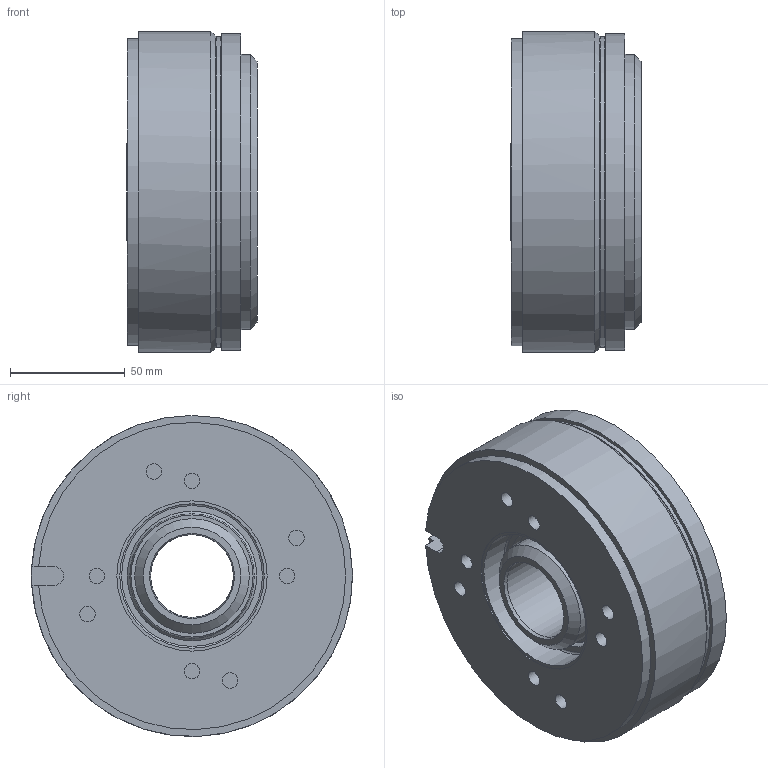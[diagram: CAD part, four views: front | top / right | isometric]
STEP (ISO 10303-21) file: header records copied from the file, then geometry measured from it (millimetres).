
FILE_DESCRIPTION (( 'STEP AP203' ), '1' );
FILE_NAME ('86_61114P00-0001_Idx_E.STEP', '2025-02-14T09:37:05', ( '' ), ( '' ), 'SwSTEP 2.0', 'SolidWorks 2022', '' );
FILE_SCHEMA (( 'CONFIG_CONTROL_DESIGN' ));
Length unit declared in the file: millimetre
Products named in the file (1): 86_61114P00-0001_Idx_E
Bounding box: 56.73 x 140 x 140 mm (x, y, z)
Volume: 725511.1 mm3; surface area: 99773.8 mm2
Topology: 2 solids, 2 shells, 68 faces, 129 edges, 83 vertices
Faces by surface type: cylinder 28, plane 26, cone 11, torus 3
Full cylindrical faces by diameter (mm): 6.8 x8, 8.5 x3, 36 x1, 36.2 x1, 50 x2, 54.3 x1, 56.5 x1, 63 x1, 65.5 x1, 66 x1, 70 x1, 108 x1, 120 x1, 135.5 x1, 138 x1, 140 x1
Entity records: 1962 total; most frequent: CARTESIAN_POINT 644, DIRECTION 278, ORIENTED_EDGE 164, EDGE_LOOP 136, AXIS2_PLACEMENT_3D 133, FACE_OUTER_BOUND 97, EDGE_CURVE 82, VERTEX_POINT 76
